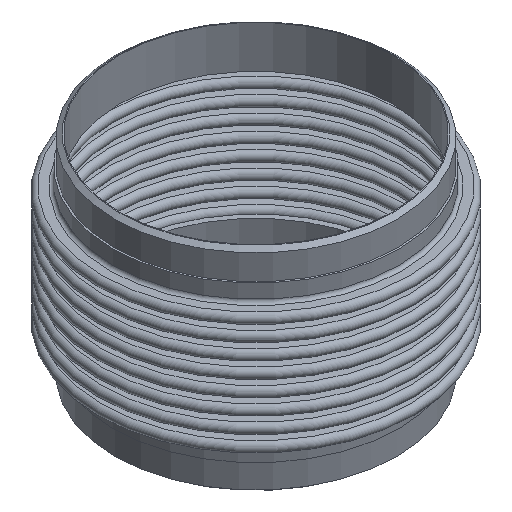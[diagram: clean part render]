
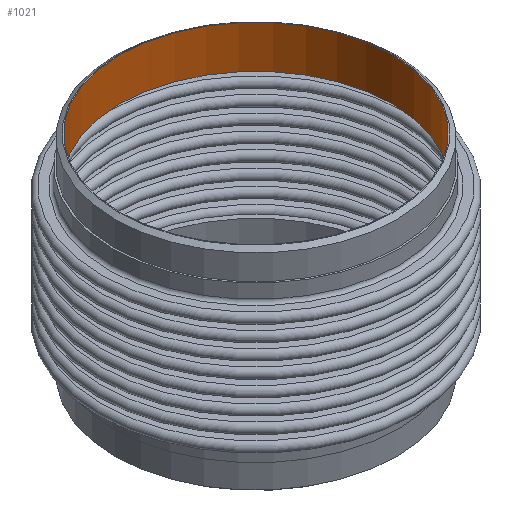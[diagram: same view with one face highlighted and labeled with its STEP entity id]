
A CAD part, isometric view. The second image highlights one B-rep face of the part: STEP entity #1021.
In plain terms, the highlighted cylindrical face has radius 244.475 mm (diameter 488.95 mm), a full revolution.
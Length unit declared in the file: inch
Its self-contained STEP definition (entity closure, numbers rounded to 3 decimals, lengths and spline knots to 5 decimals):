
#37=LINE('',#1974,#44);
#44=VECTOR('',#1677,9.625);
#50=CYLINDRICAL_SURFACE('',#1267,9.625);
#212=FACE_OUTER_BOUND('',#332,.T.);
#332=EDGE_LOOP('',(#896,#897,#898,#899));
#449=CIRCLE('',#1266,9.625);
#450=CIRCLE('',#1268,9.625);
#531=VERTEX_POINT('',#1969);
#532=VERTEX_POINT('',#1972);
#653=EDGE_CURVE('',#531,#531,#449,.T.);
#654=EDGE_CURVE('',#532,#532,#450,.T.);
#655=EDGE_CURVE('',#532,#531,#37,.T.);
#896=ORIENTED_EDGE('',*,*,#654,.F.);
#897=ORIENTED_EDGE('',*,*,#655,.T.);
#898=ORIENTED_EDGE('',*,*,#653,.F.);
#899=ORIENTED_EDGE('',*,*,#655,.F.);
#1021=ADVANCED_FACE('',(#212),#50,.F.);
#1266=AXIS2_PLACEMENT_3D('',#1970,#1671,#1672);
#1267=AXIS2_PLACEMENT_3D('',#1971,#1673,#1674);
#1268=AXIS2_PLACEMENT_3D('',#1973,#1675,#1676);
#1671=DIRECTION('center_axis',(0.,0.,-1.));
#1672=DIRECTION('ref_axis',(-1.,0.,0.));
#1673=DIRECTION('center_axis',(0.,0.,1.));
#1674=DIRECTION('ref_axis',(-1.,0.,0.));
#1675=DIRECTION('center_axis',(0.,0.,1.));
#1676=DIRECTION('ref_axis',(-1.,0.,0.));
#1677=DIRECTION('',(0.,0.,1.));
#1969=CARTESIAN_POINT('',(9.625,0.,1.5));
#1970=CARTESIAN_POINT('Origin',(0.,0.,1.5));
#1971=CARTESIAN_POINT('Origin',(0.,0.,0.));
#1972=CARTESIAN_POINT('',(9.625,0.,-1.5));
#1973=CARTESIAN_POINT('Origin',(0.,0.,-1.5));
#1974=CARTESIAN_POINT('',(9.625,0.,0.));
